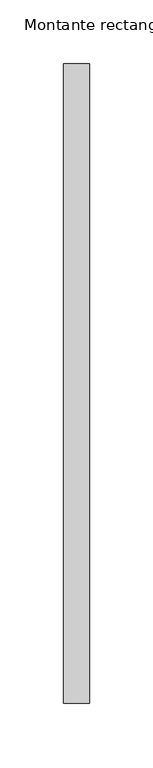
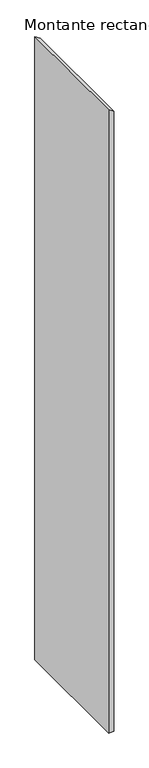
"""IFC4 building model written with IfcOpenShell, lengths in millimetres: member geometry, Montante rectangular : CIRCLES."""

from ifc_helpers import new_model, si_unit, frame, origin, place, context, project, spatial, polyline, outline, extrude, source, transform, mapped, element, save


def montante_rectangular_06d679b1(model_context):
    return source(origin(), model_context, "Body", "SweptSolid", [
        extrude(outline(polyline([(-30.7665059, 10.0), (-17.3736488, -10.0), (-2599.6283322, -10.0), (-2599.6283322, 10.0), (-30.7665059, 10.0)])), frame((0.0, -250.0, 0.0), z_axis=(0.0, 1.0, 0.0), x_axis=(0.0, 0.0, 1.0)), (0.0, 0.0, 1.0), 500.0),
    ])


if __name__ == "__main__":
    model = new_model("IFC4")
    model_context = context("Model", 3, world=origin())
    ifc_project = project(units=[si_unit("LENGTHUNIT", "METRE", prefix="MILLI")], contexts=[model_context])
    site = spatial("IfcSite", under=ifc_project)
    building = spatial("IfcBuilding", under=site)
    placement = place(None, origin())
    montante_rectangular_shape = montante_rectangular_06d679b1(model_context)
    element("IfcMember", 1, ObjectType="Montante rectangular : CIRCLES", at=placement, inside=building, context=model_context, shape_type="MappedRepresentation", body=[
        mapped(montante_rectangular_shape, transform((0.0, 0.0, 0.0), x_axis=(1.0, 0.0, 0.0), y_axis=(0.0, 1.0, 0.0), z_axis=(0.0, 0.0, 1.0))),
    ])
    save(model, "model.ifc")
